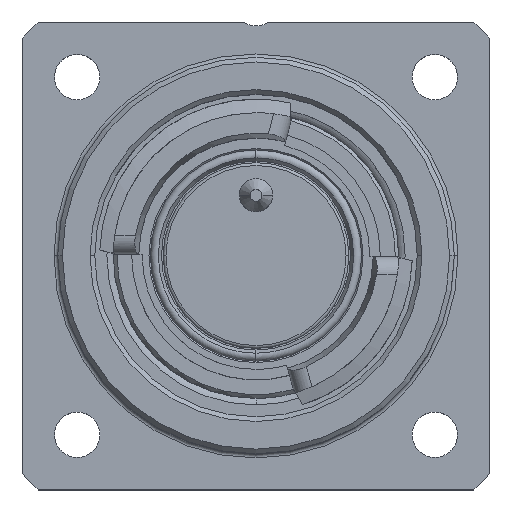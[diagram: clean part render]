
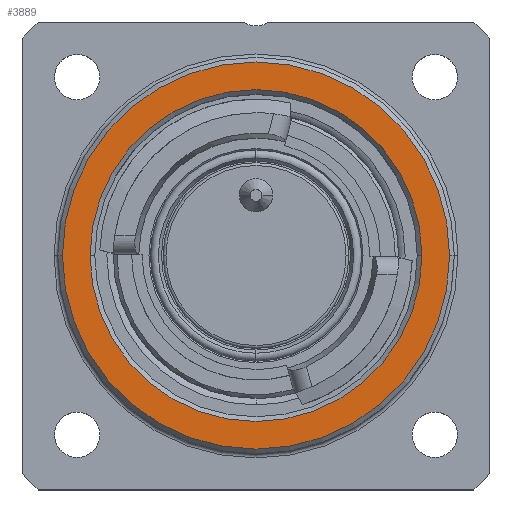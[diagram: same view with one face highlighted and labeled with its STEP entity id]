
A CAD part, top view. The second image highlights one B-rep face of the part: STEP entity #3889.
In plain terms, the highlighted planar face has unit normal (0, 0, 1).
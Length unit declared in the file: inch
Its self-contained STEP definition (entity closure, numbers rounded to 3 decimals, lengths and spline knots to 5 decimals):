
#233 = EDGE_CURVE ( 'NONE', #2022, #6873, #4794, .T. ) ;
#261 = DIRECTION ( 'NONE',  ( 0., 0., 1. ) ) ;
#424 = ORIENTED_EDGE ( 'NONE', *, *, #6702, .T. ) ;
#1175 = CARTESIAN_POINT ( 'NONE',  ( 0., 0.42126, -0.19291 ) ) ;
#1223 = DIRECTION ( 'NONE',  ( -1., 0., 0. ) ) ;
#1592 = CARTESIAN_POINT ( 'NONE',  ( 0., 0., -0.19291 ) ) ;
#1914 = ORIENTED_EDGE ( 'NONE', *, *, #6300, .T. ) ;
#1976 = DIRECTION ( 'NONE',  ( 0., 0., -1. ) ) ;
#2022 = VERTEX_POINT ( 'NONE', #9035 ) ;
#2026 = CARTESIAN_POINT ( 'NONE',  ( 0., 0., -0.19291 ) ) ;
#2121 = AXIS2_PLACEMENT_3D ( 'NONE', #2026, #1976, #4743 ) ;
#2408 = DIRECTION ( 'NONE',  ( -1., 0., 0. ) ) ;
#2434 = VERTEX_POINT ( 'NONE', #8005 ) ;
#2764 = VERTEX_POINT ( 'NONE', #6474 ) ;
#3029 = ORIENTED_EDGE ( 'NONE', *, *, #233, .T. ) ;
#3041 = CARTESIAN_POINT ( 'NONE',  ( -0.41126, 0., -0.19291 ) ) ;
#3437 = CIRCLE ( 'NONE', #7518, 0.35252 ) ;
#3889 = ADVANCED_FACE ( 'NONE', ( #5373, #4589 ), #4675, .F. ) ;
#4589 = FACE_OUTER_BOUND ( 'NONE', #7010, .T. ) ;
#4675 = PLANE ( 'NONE',  #6774 ) ;
#4743 = DIRECTION ( 'NONE',  ( -1., 0., 0. ) ) ;
#4794 = CIRCLE ( 'NONE', #8621, 0.41126 ) ;
#5373 = FACE_BOUND ( 'NONE', #6638, .T. ) ;
#5424 = EDGE_CURVE ( 'NONE', #6873, #2022, #6929, .T. ) ;
#6093 = CARTESIAN_POINT ( 'NONE',  ( 0., 0., -0.19291 ) ) ;
#6300 = EDGE_CURVE ( 'NONE', #2434, #2764, #6782, .T. ) ;
#6435 = DIRECTION ( 'NONE',  ( -1., 0., 0. ) ) ;
#6474 = CARTESIAN_POINT ( 'NONE',  ( 0.35252, 0., -0.19291 ) ) ;
#6638 = EDGE_LOOP ( 'NONE', ( #424, #1914 ) ) ;
#6702 = EDGE_CURVE ( 'NONE', #2764, #2434, #3437, .T. ) ;
#6774 = AXIS2_PLACEMENT_3D ( 'NONE', #1175, #7483, #1223 ) ;
#6782 = CIRCLE ( 'NONE', #2121, 0.35252 ) ;
#6873 = VERTEX_POINT ( 'NONE', #3041 ) ;
#6929 = CIRCLE ( 'NONE', #8679, 0.41126 ) ;
#7010 = EDGE_LOOP ( 'NONE', ( #8895, #3029 ) ) ;
#7483 = DIRECTION ( 'NONE',  ( 0., 0., -1. ) ) ;
#7518 = AXIS2_PLACEMENT_3D ( 'NONE', #8133, #8689, #2408 ) ;
#7666 = DIRECTION ( 'NONE',  ( -1., 0., 0. ) ) ;
#8005 = CARTESIAN_POINT ( 'NONE',  ( -0.35252, 0., -0.19291 ) ) ;
#8133 = CARTESIAN_POINT ( 'NONE',  ( 0., 0., -0.19291 ) ) ;
#8349 = DIRECTION ( 'NONE',  ( 0., 0., 1. ) ) ;
#8621 = AXIS2_PLACEMENT_3D ( 'NONE', #1592, #261, #6435 ) ;
#8679 = AXIS2_PLACEMENT_3D ( 'NONE', #6093, #8349, #7666 ) ;
#8689 = DIRECTION ( 'NONE',  ( 0., 0., -1. ) ) ;
#8895 = ORIENTED_EDGE ( 'NONE', *, *, #5424, .T. ) ;
#9035 = CARTESIAN_POINT ( 'NONE',  ( 0.41126, 0., -0.19291 ) ) ;
